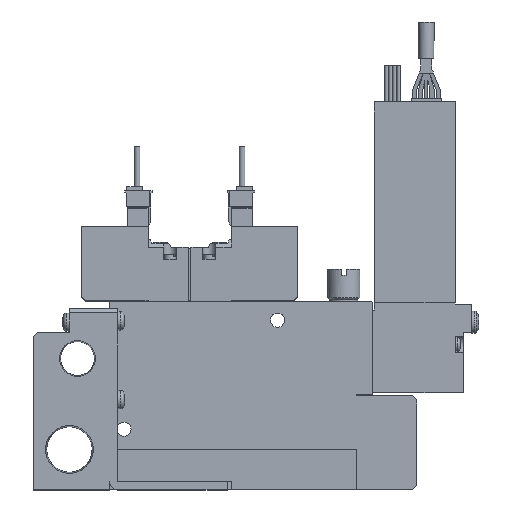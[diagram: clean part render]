
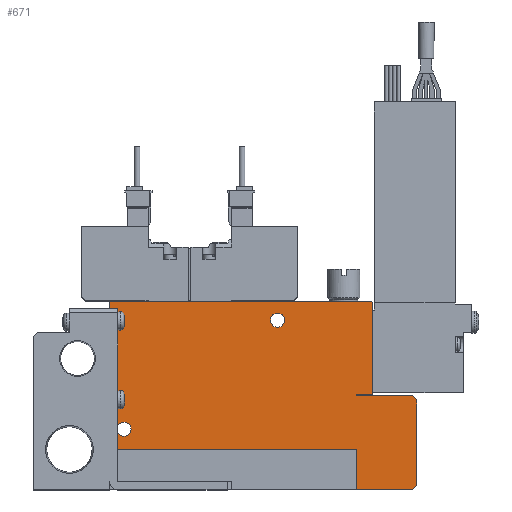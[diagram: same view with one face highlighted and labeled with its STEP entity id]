
A CAD part, top view. The second image highlights one B-rep face of the part: STEP entity #671.
In plain terms, the highlighted planar face has unit normal (0, 0, 1).
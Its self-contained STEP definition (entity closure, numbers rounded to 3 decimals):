
#671=ADVANCED_FACE('',(#1590,#1591,#1592),#1593,.F.);
#1590=FACE_OUTER_BOUND('',#2752,.T.);
#1591=FACE_BOUND('',#2753,.T.);
#1592=FACE_BOUND('',#2754,.T.);
#1593=PLANE('',#2755);
#2752=EDGE_LOOP('',(#5976,#5977,#5978,#5979,#5980,#5981,#5982,#5983,#5984,#5985,#5986,#5987,#5988,#5989));
#2753=EDGE_LOOP('',(#5990));
#2754=EDGE_LOOP('',(#5991));
#2755=AXIS2_PLACEMENT_3D('',#5992,#5993,#5994);
#5976=ORIENTED_EDGE('',*,*,#8146,.T.);
#5977=ORIENTED_EDGE('',*,*,#8147,.F.);
#5978=ORIENTED_EDGE('',*,*,#8148,.F.);
#5979=ORIENTED_EDGE('',*,*,#8149,.T.);
#5980=ORIENTED_EDGE('',*,*,#8150,.T.);
#5981=ORIENTED_EDGE('',*,*,#8151,.T.);
#5982=ORIENTED_EDGE('',*,*,#8152,.T.);
#5983=ORIENTED_EDGE('',*,*,#8153,.T.);
#5984=ORIENTED_EDGE('',*,*,#8154,.T.);
#5985=ORIENTED_EDGE('',*,*,#8155,.T.);
#5986=ORIENTED_EDGE('',*,*,#8156,.T.);
#5987=ORIENTED_EDGE('',*,*,#8157,.T.);
#5988=ORIENTED_EDGE('',*,*,#8158,.T.);
#5989=ORIENTED_EDGE('',*,*,#8159,.T.);
#5990=ORIENTED_EDGE('',*,*,#8145,.F.);
#5991=ORIENTED_EDGE('',*,*,#8160,.F.);
#5992=CARTESIAN_POINT('',(0.0,0.0,5.0));
#5993=DIRECTION('',(0.0,0.0,-1.0));
#5994=DIRECTION('',(0.0,-1.0,0.0));
#8145=EDGE_CURVE('',#10031,#10031,#10032,.T.);
#8146=EDGE_CURVE('',#10033,#10034,#10035,.T.);
#8147=EDGE_CURVE('',#10036,#10034,#10037,.T.);
#8148=EDGE_CURVE('',#10038,#10036,#10039,.T.);
#8149=EDGE_CURVE('',#10038,#10040,#10041,.T.);
#8150=EDGE_CURVE('',#10040,#10042,#10043,.T.);
#8151=EDGE_CURVE('',#10042,#10044,#10045,.T.);
#8152=EDGE_CURVE('',#10044,#10046,#10047,.T.);
#8153=EDGE_CURVE('',#10046,#10048,#10049,.T.);
#8154=EDGE_CURVE('',#10048,#10050,#10051,.T.);
#8155=EDGE_CURVE('',#10050,#10052,#10053,.T.);
#8156=EDGE_CURVE('',#10052,#10054,#10055,.T.);
#8157=EDGE_CURVE('',#10054,#10056,#10057,.T.);
#8158=EDGE_CURVE('',#10056,#10058,#10059,.T.);
#8159=EDGE_CURVE('',#10058,#10033,#10060,.T.);
#8160=EDGE_CURVE('',#10061,#10061,#10062,.T.);
#10031=VERTEX_POINT('',#13095);
#10032=CIRCLE('',#13096,1.75);
#10033=VERTEX_POINT('',#13097);
#10034=VERTEX_POINT('',#13098);
#10035=LINE('',#13099,#13100);
#10036=VERTEX_POINT('',#13101);
#10037=LINE('',#13102,#13103);
#10038=VERTEX_POINT('',#13104);
#10039=LINE('',#13105,#13106);
#10040=VERTEX_POINT('',#13107);
#10041=LINE('',#13108,#13109);
#10042=VERTEX_POINT('',#13110);
#10043=LINE('',#13111,#13112);
#10044=VERTEX_POINT('',#13113);
#10045=LINE('',#13114,#13115);
#10046=VERTEX_POINT('',#13116);
#10047=LINE('',#13117,#13118);
#10048=VERTEX_POINT('',#13119);
#10049=LINE('',#13120,#13121);
#10050=VERTEX_POINT('',#13122);
#10051=LINE('',#13123,#13124);
#10052=VERTEX_POINT('',#13125);
#10053=LINE('',#13126,#13127);
#10054=VERTEX_POINT('',#13128);
#10055=LINE('',#13129,#13130);
#10056=VERTEX_POINT('',#13131);
#10057=LINE('',#13132,#13133);
#10058=VERTEX_POINT('',#13134);
#10059=LINE('',#13135,#13136);
#10060=LINE('',#13137,#13138);
#10061=VERTEX_POINT('',#13139);
#10062=CIRCLE('',#13140,1.75);
#13095=CARTESIAN_POINT('',(5.25,15.0,5.0));
#13096=AXIS2_PLACEMENT_3D('',#15567,#15568,#15569);
#13097=CARTESIAN_POINT('',(0.0,46.4,5.0));
#13098=CARTESIAN_POINT('',(0.0,10.1,5.0));
#13099=CARTESIAN_POINT('',(0.0,46.4,5.0));
#13100=VECTOR('',#15570,1.0);
#13101=CARTESIAN_POINT('',(61.1,10.1,5.0));
#13102=CARTESIAN_POINT('',(61.1,10.1,5.0));
#13103=VECTOR('',#15571,1.0);
#13104=CARTESIAN_POINT('',(61.1,0.0,5.0));
#13105=CARTESIAN_POINT('',(61.1,0.0,5.0));
#13106=VECTOR('',#15572,1.0);
#13107=CARTESIAN_POINT('',(75.0,0.0,5.0));
#13108=CARTESIAN_POINT('',(0.0,0.0,5.0));
#13109=VECTOR('',#15573,1.0);
#13110=CARTESIAN_POINT('',(76.0,1.0,5.0));
#13111=CARTESIAN_POINT('',(75.0,0.0,5.0));
#13112=VECTOR('',#15574,1.0);
#13113=CARTESIAN_POINT('',(76.0,22.25,5.0));
#13114=CARTESIAN_POINT('',(76.0,1.0,5.0));
#13115=VECTOR('',#15575,1.0);
#13116=CARTESIAN_POINT('',(75.0,23.25,5.0));
#13117=CARTESIAN_POINT('',(76.0,22.25,5.0));
#13118=VECTOR('',#15576,1.0);
#13119=CARTESIAN_POINT('',(61.0,23.25,5.0));
#13120=CARTESIAN_POINT('',(75.0,23.25,5.0));
#13121=VECTOR('',#15577,1.0);
#13122=CARTESIAN_POINT('',(61.0,23.5,5.0));
#13123=CARTESIAN_POINT('',(61.0,23.25,5.0));
#13124=VECTOR('',#15578,1.0);
#13125=CARTESIAN_POINT('',(65.0,23.5,5.0));
#13126=CARTESIAN_POINT('',(61.0,23.5,5.0));
#13127=VECTOR('',#15579,1.0);
#13128=CARTESIAN_POINT('',(65.0,46.4,5.0));
#13129=CARTESIAN_POINT('',(65.0,23.5,5.0));
#13130=VECTOR('',#15580,1.0);
#13131=CARTESIAN_POINT('',(64.8,46.6,5.0));
#13132=CARTESIAN_POINT('',(65.0,46.4,5.0));
#13133=VECTOR('',#15581,1.0);
#13134=CARTESIAN_POINT('',(0.2,46.6,5.0));
#13135=CARTESIAN_POINT('',(64.8,46.6,5.0));
#13136=VECTOR('',#15582,1.0);
#13137=CARTESIAN_POINT('',(0.2,46.6,5.0));
#13138=VECTOR('',#15583,1.0);
#13139=CARTESIAN_POINT('',(43.25,42.0,5.0));
#13140=AXIS2_PLACEMENT_3D('',#15584,#15585,#15586);
#15567=CARTESIAN_POINT('',(3.5,15.0,5.0));
#15568=DIRECTION('',(0.0,0.0,1.0));
#15569=DIRECTION('',(1.0,0.0,0.0));
#15570=DIRECTION('',(0.0,-1.0,0.0));
#15571=DIRECTION('',(-1.0,0.0,0.0));
#15572=DIRECTION('',(0.0,1.0,0.0));
#15573=DIRECTION('',(1.0,0.0,0.0));
#15574=DIRECTION('',(0.707,0.707,0.0));
#15575=DIRECTION('',(0.0,1.0,0.0));
#15576=DIRECTION('',(-0.707,0.707,0.0));
#15577=DIRECTION('',(-1.0,0.0,0.0));
#15578=DIRECTION('',(0.0,1.0,0.0));
#15579=DIRECTION('',(1.0,0.,0.0));
#15580=DIRECTION('',(0.0,1.0,0.0));
#15581=DIRECTION('',(-0.707,0.707,0.0));
#15582=DIRECTION('',(-1.0,0.0,0.0));
#15583=DIRECTION('',(-0.707,-0.707,0.0));
#15584=CARTESIAN_POINT('',(41.5,42.0,5.0));
#15585=DIRECTION('',(0.0,0.0,1.0));
#15586=DIRECTION('',(1.0,0.0,0.0));
